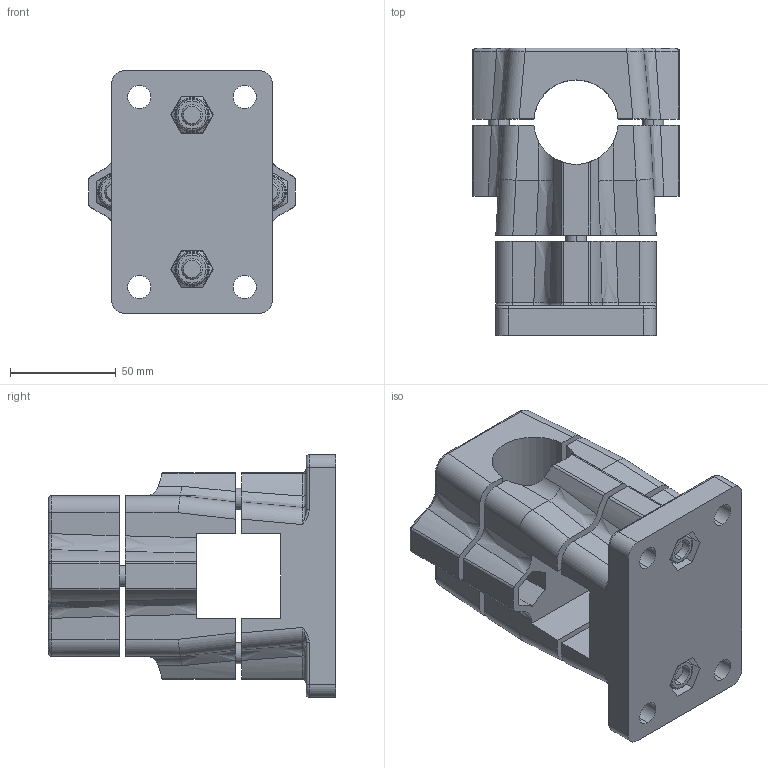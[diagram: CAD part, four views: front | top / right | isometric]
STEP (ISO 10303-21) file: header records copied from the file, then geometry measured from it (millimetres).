
FILE_DESCRIPTION (( 'STEP AP214' ), '1' );
FILE_NAME ('141-B40-V40-2-BL.step', '2024-03-18T10:23:02', ( '' ), ( '' ), 'SwSTEP 2.0', 'SolidWorks 2022', '' );
FILE_SCHEMA (( 'AUTOMOTIVE_DESIGN' ));
Length unit declared in the file: millimetre
Products named in the file (1): 141-B40-V40-2-BL
Bounding box: 98 x 136 x 115 mm (x, y, z)
Volume: 578158.2 mm3; surface area: 109575.7 mm2
Topology: 1 solids, 2 shells, 422 faces, 1048 edges, 656 vertices
Faces by surface type: plane 180, cylinder 130, torus 40, bspline 36, cone 32, sphere 4
Entity records: 16005 total; most frequent: CARTESIAN_POINT 4702, ORIENTED_EDGE 2080, DIRECTION 1946, EDGE_CURVE 1040, AXIS2_PLACEMENT_3D 719, VERTEX_POINT 656, LINE 508, VECTOR 508
